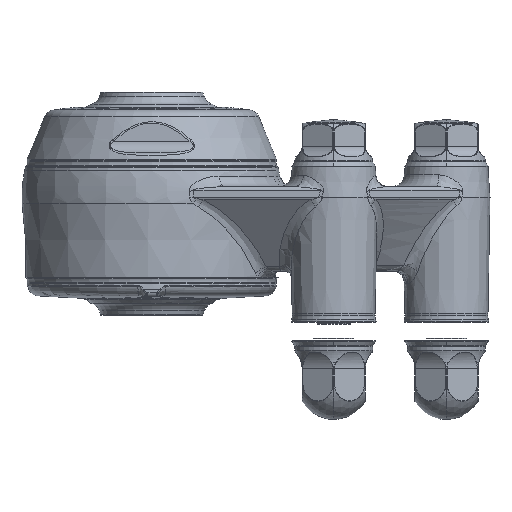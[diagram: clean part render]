
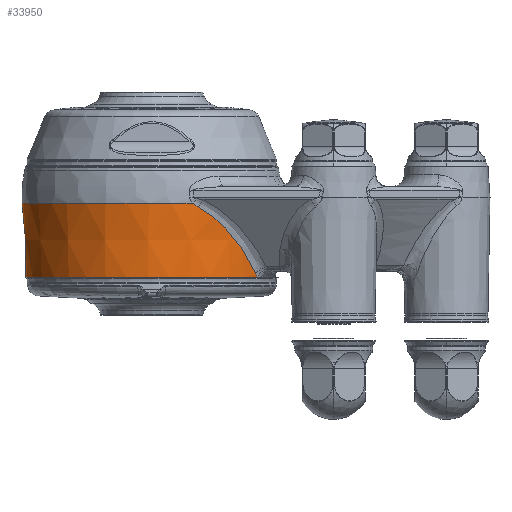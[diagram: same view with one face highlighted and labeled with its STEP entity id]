
A CAD part, left-side view. The second image highlights one B-rep face of the part: STEP entity #33950.
In plain terms, the highlighted conical face has half-angle 2.646 degrees and reference radius 33 mm.
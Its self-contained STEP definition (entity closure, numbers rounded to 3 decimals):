
#653 = B_SPLINE_CURVE_WITH_KNOTS ( 'NONE', 3,
 ( #52075, #10367, #31382, #13743, #48454, #27459, #30812, #19051, #1984, #47882 ),
 .UNSPECIFIED., .F., .F.,
 ( 4, 2, 2, 2, 4 ),
 ( 0., 0.006, 0.013, 0.019, 0.026 ),
 .UNSPECIFIED. ) ;
#819 = AXIS2_PLACEMENT_3D ( 'NONE', #51029, #33679, #46270 ) ;
#1160 = EDGE_CURVE ( 'NONE', #38914, #7142, #34887, .T. ) ;
#1250 = CARTESIAN_POINT ( 'NONE',  ( -17.471, -26.74, -13.9 ) ) ;
#1984 = CARTESIAN_POINT ( 'NONE',  ( 19.417, -25.546, -11.402 ) ) ;
#2959 = EDGE_CURVE ( 'NONE', #49125, #7542, #48606, .T. ) ;
#2960 = ORIENTED_EDGE ( 'NONE', *, *, #39093, .T. ) ;
#3726 = CARTESIAN_POINT ( 'NONE',  ( -31.013, -10.676, 4.636 ) ) ;
#3807 = ORIENTED_EDGE ( 'NONE', *, *, #20535, .T. ) ;
#4977 = EDGE_CURVE ( 'NONE', #38482, #38914, #27692, .T. ) ;
#5700 = CARTESIAN_POINT ( 'NONE',  ( -28.976, -15.174, 1.704 ) ) ;
#7142 = VERTEX_POINT ( 'NONE', #8933 ) ;
#7542 = VERTEX_POINT ( 'NONE', #38691 ) ;
#8135 = CARTESIAN_POINT ( 'NONE',  ( 31.013, -10.676, 4.636 ) ) ;
#8933 = CARTESIAN_POINT ( 'NONE',  ( -30.566, -11.798, 3.878 ) ) ;
#9619 = CARTESIAN_POINT ( 'NONE',  ( -20.589, -24.713, -9.793 ) ) ;
#10367 = CARTESIAN_POINT ( 'NONE',  ( 29.83, -13.574, 2.872 ) ) ;
#11132 = ORIENTED_EDGE ( 'NONE', *, *, #2959, .T. ) ;
#12202 = FACE_OUTER_BOUND ( 'NONE', #52088, .T. ) ;
#12383 = CIRCLE ( 'NONE', #819, 32.807 ) ;
#12414 = DIRECTION ( 'NONE',  ( 0., 1., 0. ) ) ;
#13507 = CARTESIAN_POINT ( 'NONE',  ( -30.755, -11.334, 4.154 ) ) ;
#13535 = CARTESIAN_POINT ( 'NONE',  ( 0., 0., -13.9 ) ) ;
#13551 = CARTESIAN_POINT ( 'NONE',  ( -26.089, -19.412, -2.251 ) ) ;
#13743 = CARTESIAN_POINT ( 'NONE',  ( 27.095, -18.111, -0.873 ) ) ;
#14093 = CARTESIAN_POINT ( 'NONE',  ( -22.877, -22.818, -6.655 ) ) ;
#14117 = CARTESIAN_POINT ( 'NONE',  ( -18.222, -26.282, -13.044 ) ) ;
#14548 = ORIENTED_EDGE ( 'NONE', *, *, #1160, .T. ) ;
#15060 = ORIENTED_EDGE ( 'NONE', *, *, #37662, .T. ) ;
#15410 = B_SPLINE_CURVE_WITH_KNOTS ( 'NONE', 3,
 ( #50947, #8135, #16809, #42848, #17368, #41729 ),
 .UNSPECIFIED., .F., .F.,
 ( 4, 2, 4 ),
 ( 0., 0.001, 0.002 ),
 .UNSPECIFIED. ) ;
#15913 = CONICAL_SURFACE ( 'NONE', #22193, 33., 0.046 ) ;
#16147 = DIRECTION ( 'NONE',  ( 0., 0., 1. ) ) ;
#16809 = CARTESIAN_POINT ( 'NONE',  ( 30.93, -10.89, 4.466 ) ) ;
#17368 = CARTESIAN_POINT ( 'NONE',  ( 30.663, -11.563, 4.011 ) ) ;
#17743 = CARTESIAN_POINT ( 'NONE',  ( -27.095, -18.111, -0.873 ) ) ;
#18303 = CARTESIAN_POINT ( 'NONE',  ( -18.222, -26.282, -13.044 ) ) ;
#19051 = CARTESIAN_POINT ( 'NONE',  ( 20.589, -24.713, -9.793 ) ) ;
#19126 = CARTESIAN_POINT ( 'NONE',  ( -17.471, -26.74, -13.9 ) ) ;
#20302 = ORIENTED_EDGE ( 'NONE', *, *, #48057, .T. ) ;
#20535 = EDGE_CURVE ( 'NONE', #30497, #48302, #15410, .T. ) ;
#21101 = DIRECTION ( 'NONE',  ( 0., 0., 1. ) ) ;
#21167 = VERTEX_POINT ( 'NONE', #50140 ) ;
#21355 = CARTESIAN_POINT ( 'NONE',  ( -30.566, -11.798, 3.878 ) ) ;
#22193 = AXIS2_PLACEMENT_3D ( 'NONE', #45558, #46087, #41375 ) ;
#23615 = CARTESIAN_POINT ( 'NONE',  ( 17.471, -26.74, -13.9 ) ) ;
#24443 = DIRECTION ( 'NONE',  ( 0., 1., 0. ) ) ;
#25048 = AXIS2_PLACEMENT_3D ( 'NONE', #55286, #16147, #34336 ) ;
#27271 = CARTESIAN_POINT ( 'NONE',  ( -30.566, -11.798, 3.878 ) ) ;
#27459 = CARTESIAN_POINT ( 'NONE',  ( 23.98, -21.766, -5.142 ) ) ;
#27692 = B_SPLINE_CURVE_WITH_KNOTS ( 'NONE', 3,
 ( #1250, #43525, #52448, #14117 ),
 .UNSPECIFIED., .F., .F.,
 ( 4, 4 ),
 ( 0.005, 0.006 ),
 .UNSPECIFIED. ) ;
#27793 = VERTEX_POINT ( 'NONE', #51291 ) ;
#27850 = CARTESIAN_POINT ( 'NONE',  ( 18.222, -26.282, -13.044 ) ) ;
#28648 = DIRECTION ( 'NONE',  ( 0., 0., -1. ) ) ;
#29072 = VERTEX_POINT ( 'NONE', #50684 ) ;
#30497 = VERTEX_POINT ( 'NONE', #55231 ) ;
#30812 = CARTESIAN_POINT ( 'NONE',  ( 22.877, -22.818, -6.655 ) ) ;
#31382 = CARTESIAN_POINT ( 'NONE',  ( 28.976, -15.175, 1.703 ) ) ;
#32017 = CARTESIAN_POINT ( 'NONE',  ( -18.222, -26.282, -13.044 ) ) ;
#33679 = DIRECTION ( 'NONE',  ( 0., 0., -1. ) ) ;
#33950 = ADVANCED_FACE ( 'NONE', ( #12202 ), #15913, .T. ) ;
#34336 = DIRECTION ( 'NONE',  ( 0., 1., 0. ) ) ;
#34830 = CARTESIAN_POINT ( 'NONE',  ( -29.83, -13.574, 2.872 ) ) ;
#34887 = B_SPLINE_CURVE_WITH_KNOTS ( 'NONE', 3,
 ( #18303, #43783, #9619, #14093, #35384, #13551, #17743, #5700, #34830, #27271 ),
 .UNSPECIFIED., .F., .F.,
 ( 4, 2, 2, 2, 4 ),
 ( 0., 0.006, 0.013, 0.019, 0.026 ),
 .UNSPECIFIED. ) ;
#35384 = CARTESIAN_POINT ( 'NONE',  ( -23.98, -21.766, -5.142 ) ) ;
#35704 = CARTESIAN_POINT ( 'NONE',  ( 30.566, -11.798, 3.878 ) ) ;
#35766 = EDGE_CURVE ( 'NONE', #27793, #30497, #12383, .T. ) ;
#36267 = CARTESIAN_POINT ( 'NONE',  ( 18.222, -26.282, -13.044 ) ) ;
#37662 = EDGE_CURVE ( 'NONE', #7542, #29072, #46527, .T. ) ;
#37873 = CARTESIAN_POINT ( 'NONE',  ( -31.089, -10.477, 4.828 ) ) ;
#38458 = CIRCLE ( 'NONE', #54476, 32.807 ) ;
#38482 = VERTEX_POINT ( 'NONE', #19126 ) ;
#38691 = CARTESIAN_POINT ( 'NONE',  ( 17.471, -26.74, -13.9 ) ) ;
#38914 = VERTEX_POINT ( 'NONE', #32017 ) ;
#39093 = EDGE_CURVE ( 'NONE', #21167, #27793, #38458, .T. ) ;
#39849 = CARTESIAN_POINT ( 'NONE',  ( 17.993, -26.424, -13.359 ) ) ;
#41375 = DIRECTION ( 'NONE',  ( 0., -1., 0. ) ) ;
#41729 = CARTESIAN_POINT ( 'NONE',  ( 30.566, -11.798, 3.878 ) ) ;
#42848 = CARTESIAN_POINT ( 'NONE',  ( 30.755, -11.334, 4.154 ) ) ;
#43195 = CARTESIAN_POINT ( 'NONE',  ( -30.663, -11.563, 4.011 ) ) ;
#43525 = CARTESIAN_POINT ( 'NONE',  ( -17.742, -26.577, -13.643 ) ) ;
#43783 = CARTESIAN_POINT ( 'NONE',  ( -19.417, -25.546, -11.402 ) ) ;
#44910 = CARTESIAN_POINT ( 'NONE',  ( 17.742, -26.577, -13.643 ) ) ;
#45047 = EDGE_CURVE ( 'NONE', #7142, #21167, #54896, .T. ) ;
#45558 = CARTESIAN_POINT ( 'NONE',  ( 0., 0., 9. ) ) ;
#46087 = DIRECTION ( 'NONE',  ( 0., 0., 1. ) ) ;
#46270 = DIRECTION ( 'NONE',  ( 0., 1., 0. ) ) ;
#46444 = ORIENTED_EDGE ( 'NONE', *, *, #50003, .T. ) ;
#46527 = CIRCLE ( 'NONE', #53656, 31.942 ) ;
#47666 = CARTESIAN_POINT ( 'NONE',  ( -30.93, -10.89, 4.466 ) ) ;
#47777 = ORIENTED_EDGE ( 'NONE', *, *, #45047, .T. ) ;
#47882 = CARTESIAN_POINT ( 'NONE',  ( 18.222, -26.282, -13.044 ) ) ;
#48057 = EDGE_CURVE ( 'NONE', #48302, #49125, #653, .T. ) ;
#48302 = VERTEX_POINT ( 'NONE', #35704 ) ;
#48454 = CARTESIAN_POINT ( 'NONE',  ( 26.089, -19.412, -2.251 ) ) ;
#48606 = B_SPLINE_CURVE_WITH_KNOTS ( 'NONE', 3,
 ( #27850, #39849, #44910, #23615 ),
 .UNSPECIFIED., .F., .F.,
 ( 4, 4 ),
 ( 0., 0.001 ),
 .UNSPECIFIED. ) ;
#49125 = VERTEX_POINT ( 'NONE', #36267 ) ;
#49187 = CIRCLE ( 'NONE', #25048, 31.942 ) ;
#49899 = CARTESIAN_POINT ( 'NONE',  ( 0., 0., 4.828 ) ) ;
#50003 = EDGE_CURVE ( 'NONE', #29072, #38482, #49187, .T. ) ;
#50140 = CARTESIAN_POINT ( 'NONE',  ( -31.089, -10.477, 4.828 ) ) ;
#50684 = CARTESIAN_POINT ( 'NONE',  ( 0., 31.942, -13.9 ) ) ;
#50947 = CARTESIAN_POINT ( 'NONE',  ( 31.089, -10.477, 4.828 ) ) ;
#51029 = CARTESIAN_POINT ( 'NONE',  ( 0., 0., 4.828 ) ) ;
#51291 = CARTESIAN_POINT ( 'NONE',  ( 0., 32.807, 4.828 ) ) ;
#52075 = CARTESIAN_POINT ( 'NONE',  ( 30.566, -11.798, 3.878 ) ) ;
#52088 = EDGE_LOOP ( 'NONE', ( #15060, #46444, #52494, #14548, #47777, #2960, #53500, #3807, #20302, #11132 ) ) ;
#52448 = CARTESIAN_POINT ( 'NONE',  ( -17.995, -26.422, -13.356 ) ) ;
#52494 = ORIENTED_EDGE ( 'NONE', *, *, #4977, .T. ) ;
#53500 = ORIENTED_EDGE ( 'NONE', *, *, #35766, .T. ) ;
#53656 = AXIS2_PLACEMENT_3D ( 'NONE', #13535, #21101, #12414 ) ;
#54476 = AXIS2_PLACEMENT_3D ( 'NONE', #49899, #28648, #24443 ) ;
#54896 = B_SPLINE_CURVE_WITH_KNOTS ( 'NONE', 3,
 ( #21355, #43195, #13507, #47666, #3726, #37873 ),
 .UNSPECIFIED., .F., .F.,
 ( 4, 2, 4 ),
 ( 0., 0.001, 0.002 ),
 .UNSPECIFIED. ) ;
#55231 = CARTESIAN_POINT ( 'NONE',  ( 31.089, -10.477, 4.828 ) ) ;
#55286 = CARTESIAN_POINT ( 'NONE',  ( 0., 0., -13.9 ) ) ;
